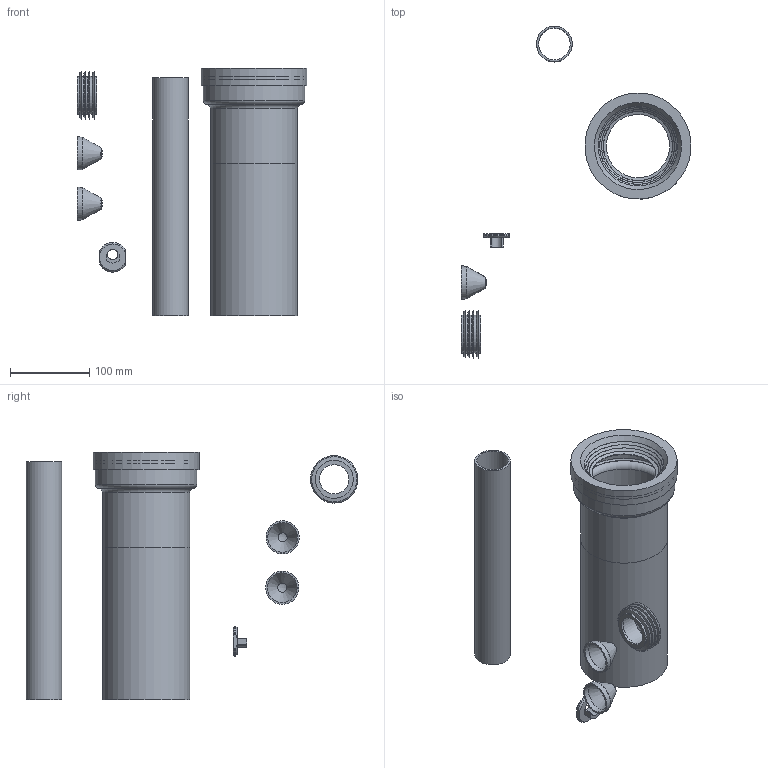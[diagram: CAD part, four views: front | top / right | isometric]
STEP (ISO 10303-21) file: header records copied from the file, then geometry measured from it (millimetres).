
FILE_DESCRIPTION(/* description */ (''),/* implementation_level */ '2;1');
FILE_NAME(/* name */ 'Z:\Geberit\Export\NewStep\152439.stp',/* time_stamp */ '2014-03-31T08:23:10+02:00',/* author */ ('bruh'),/* organization */ (''),/* preprocessor_version */ 'ST-DEVELOPER v15.2',/* originating_system */ 'Autodesk Inventor 2014',/* authorisation */ '');
FILE_SCHEMA (('AUTOMOTIVE_DESIGN { 1 0 10303 214 3 1 1 }'));
Length unit declared in the file: millimetre
Products named in the file (9): 152.424_Manschette EPDM für d122 50IRHD; 119.668_Manschette EPDM für d44 50IRHD; 817.402_Unterlegescheibe PP d33xdi13x5; 817.407_Deckkappe; 387318; 886.498_Stutzen bearb.; 886499; 886.500_Stutzen komplett; 152439
Bounding box: 290.01 x 418.81 x 312 mm (x, y, z)
Volume: 655456.7 mm3; surface area: 377787.9 mm2
Topology: 9 solids, 9 shells, 123 faces, 234 edges, 147 vertices
Faces by surface type: plane 46, cylinder 35, cone 33, torus 5, sphere 4
Full cylindrical faces by diameter (mm): 13 x2, 37 x1, 37.5 x2, 40 x1, 42 x1, 45 x1, 48 x5, 80 x1, 101.4 x1, 102 x1, 110 x2, 122 x2, 122.283 x2, 123.6 x3, 127 x1, 128 x1, 132 x1, 134 x1
Entity records: 2401 total; most frequent: DIRECTION 446, CARTESIAN_POINT 368, ORIENTED_EDGE 248, AXIS2_PLACEMENT_3D 212, EDGE_LOOP 182, EDGE_CURVE 124, VERTEX_POINT 110, ADVANCED_FACE 99
